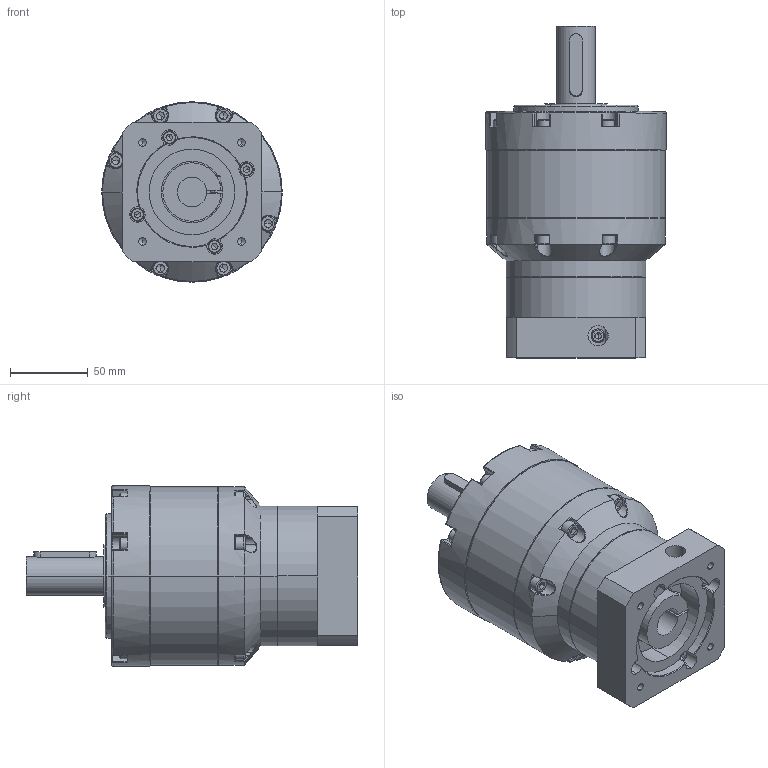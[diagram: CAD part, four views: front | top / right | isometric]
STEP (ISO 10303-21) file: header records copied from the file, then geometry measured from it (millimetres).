
FILE_DESCRIPTION (( 'STEP AP203' ), '1' );
FILE_NAME ('1G4XT.070090.031.STEP', '2022-07-26T03:41:52', ( '' ), ( '' ), 'SwSTEP 2.0', 'SolidWorks 2010', '' );
FILE_SCHEMA (( 'CONFIG_CONTROL_DESIGN' ));
Length unit declared in the file: millimetre
Products named in the file (12): 沉頭內六角M5xP0.8x15L_CB5-5; PBE115T-EB(模型)_10比; 雙圓鍵 8x7x32_40; 1G4XT.070090.031; PBE90-CMB(234BN33201)_成品; M5､ｺ､ｻｨ､ﾁｳｵｷ[ｼﾒｲﾕ､ﾆ]8~95mm_020mm; M4､ｺ､ｻｨ､ﾁｳｵｷ[ｼﾒｲﾕ､ﾆ]12~70mm_M4xP0.7x65L; PAN34-BP(雙段模型)_1.?19; PBE115-B(模型)_4.成品; PNS120-FP(模型)_4.成品; 沉頭內六角M6x30._沉頭螺絲M6x25L; 沉頭內六角M5xP0.8x20L_CB5-5
Assembly tree (30 placements, depth 2):
  1G4XT.070090.031
    沉頭內六角M6x30._沉頭螺絲M6x25L  x6
    PAN34-BP(雙段模型)_1.?19
    M5､ｺ､ｻｨ､ﾁｳｵｷ[ｼﾒｲﾕ､ﾆ]8~95mm_020mm  x3
    PBE115T-EB(模型)_10比
    沉頭內六角M5xP0.8x20L_CB5-5  x10
    PBE90-CMB(234BN33201)_成品
    M4､ｺ､ｻｨ､ﾁｳｵｷ[ｼﾒｲﾕ､ﾆ]12~70mm_M4xP0.7x65L  x4
    沉頭內六角M5xP0.8x15L_CB5-5
    PNS120-FP(模型)_4.成品
    雙圓鍵 8x7x32_40
    PBE115-B(模型)_4.成品
Bounding box: 116 x 213.4 x 116 mm (x, y, z)
Volume: 1397893.1 mm3; surface area: 191730.8 mm2
Topology: 30 solids, 30 shells, 1051 faces, 2446 edges, 1465 vertices
Faces by surface type: plane 441, cylinder 341, cone 213, bspline 32, torus 24
Entity records: 25401 total; most frequent: CARTESIAN_POINT 9893, DIRECTION 2979, ORIENTED_EDGE 2756, EDGE_CURVE 1378, AXIS2_PLACEMENT_3D 1194, VERTEX_POINT 862, EDGE_LOOP 694, CIRCLE 607
